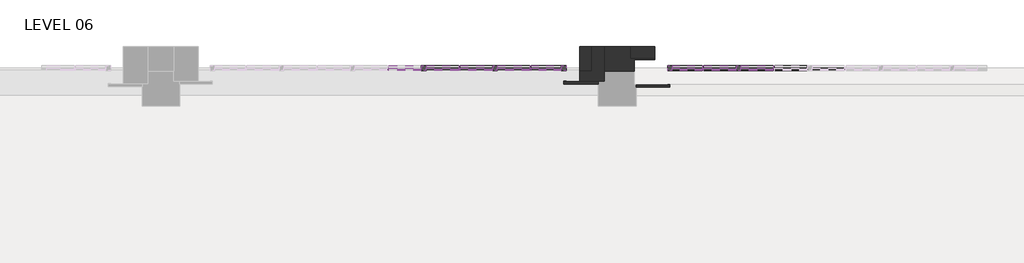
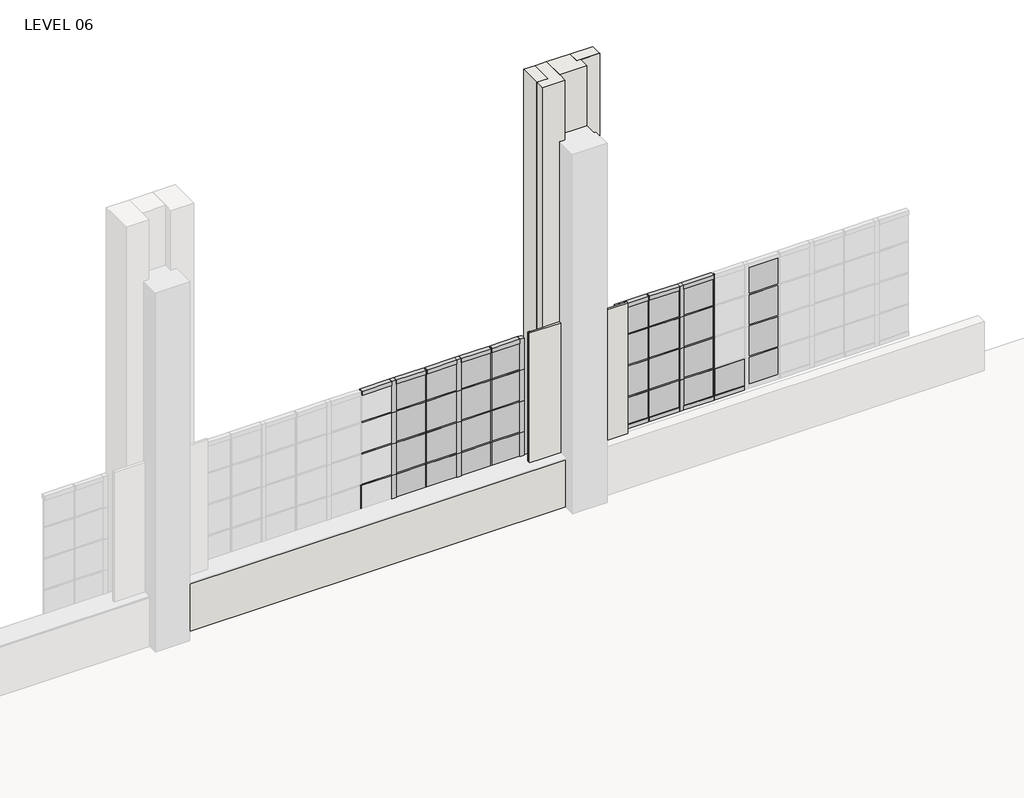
# One storey, part 10 of 16: 77 members, 33 plates, 9 walls.
"""IFC4 building model written with IfcOpenShell, lengths in millimetres."""

from ifc_helpers import new_model, si_unit, frame, origin, place, context, project, spatial, polyline, outline, extrude, faceted_brep, transform, mapped, element, save
from components import member_605ff978, member_d9fe2114, member_fd592df6, member_78bb2ef1, member_40290cd5, member_ba51e770, member_6e5aab5d, member_bacafba3, member_a6d649dc, system_panel_glazed_84a10c8e, system_panel_glazed_44697018, system_panel_glazed_99b9b709, system_panel_glazed_bf1454fd, system_panel_glazed_f5a07ad7, system_panel_glazed_70237ed9

model = new_model("IFC4")

# Units and contexts
model_context = context("Model", 3, world=origin())
ifc_project = project(units=[si_unit("LENGTHUNIT", "METRE", prefix="MILLI")], contexts=[model_context])

# Site, building, storey
site = spatial("IfcSite", under=ifc_project)
building = spatial("IfcBuilding", under=site)
storey = spatial("IfcBuildingStorey", under=building, Name="LEVEL 06", Elevation=17449.8)

# Members
placement = place(None, origin())
member_shape = member_605ff978(model_context)
element("IfcMember", 1, ObjectType="Rectangular Mullion : 1\" x 1\" - Butt Joint", at=placement, inside=storey, context=model_context, shape_type="MappedRepresentation", body=[
    mapped(member_shape, transform((-21405.0571519, -412.75, 19989.8), x_axis=(0.0, 0.0, 1.0), y_axis=(0.0, -1.0, 0.0), z_axis=(1.0, 0.0, 0.0))),
])
element("IfcMember", 2, ObjectType="Rectangular Mullion : 1\" x 1\" - Butt Joint", at=placement, inside=storey, context=model_context, shape_type="MappedRepresentation", body=[
    mapped(member_shape, transform((-21405.0571519, -412.75, 19405.6), x_axis=(0.0, 0.0, 1.0), y_axis=(0.0, -1.0, 0.0), z_axis=(1.0, 0.0, 0.0))),
])
element("IfcMember", 3, ObjectType="Rectangular Mullion : 1\" x 1\" - Butt Joint", at=placement, inside=storey, context=model_context, shape_type="MappedRepresentation", body=[
    mapped(member_shape, transform((-21405.0571519, -412.75, 18821.4), x_axis=(0.0, 0.0, 1.0), y_axis=(0.0, -1.0, 0.0), z_axis=(1.0, 0.0, 0.0))),
])
member_2_shape = member_d9fe2114(model_context)
element("IfcMember", 4, ObjectType="Rectangular Mullion : 1\" x 1\" - Butt Joint", at=placement, inside=storey, context=model_context, shape_type="MappedRepresentation", body=[
    mapped(member_2_shape, transform((-20856.4171519, -412.75, 19989.8), x_axis=(0.0, 0.0, 1.0), y_axis=(0.0, -1.0, 0.0), z_axis=(1.0, 0.0, 0.0))),
])
element("IfcMember", 5, ObjectType="Rectangular Mullion : 1\" x 1\" - Butt Joint", at=placement, inside=storey, context=model_context, shape_type="MappedRepresentation", body=[
    mapped(member_2_shape, transform((-20256.9771519, -412.75, 19989.8), x_axis=(0.0, 0.0, 1.0), y_axis=(0.0, -1.0, 0.0), z_axis=(1.0, 0.0, 0.0))),
])
element("IfcMember", 6, ObjectType="Rectangular Mullion : 1\" x 1\" - Butt Joint", at=placement, inside=storey, context=model_context, shape_type="MappedRepresentation", body=[
    mapped(member_2_shape, transform((-20856.4171519, -412.75, 19405.6), x_axis=(0.0, 0.0, 1.0), y_axis=(0.0, -1.0, 0.0), z_axis=(1.0, 0.0, 0.0))),
])
element("IfcMember", 7, ObjectType="Rectangular Mullion : 1\" x 1\" - Butt Joint", at=placement, inside=storey, context=model_context, shape_type="MappedRepresentation", body=[
    mapped(member_2_shape, transform((-20256.9771519, -412.75, 19405.6), x_axis=(0.0, 0.0, 1.0), y_axis=(0.0, -1.0, 0.0), z_axis=(1.0, 0.0, 0.0))),
])
element("IfcMember", 8, ObjectType="Rectangular Mullion : 1\" x 1\" - Butt Joint", at=placement, inside=storey, context=model_context, shape_type="MappedRepresentation", body=[
    mapped(member_2_shape, transform((-20856.4171519, -412.75, 18821.4), x_axis=(0.0, 0.0, 1.0), y_axis=(0.0, -1.0, 0.0), z_axis=(1.0, 0.0, 0.0))),
])
element("IfcMember", 9, ObjectType="Rectangular Mullion : 1\" x 1\" - Butt Joint", at=placement, inside=storey, context=model_context, shape_type="MappedRepresentation", body=[
    mapped(member_2_shape, transform((-20256.9771519, -412.75, 18821.4), x_axis=(0.0, 0.0, 1.0), y_axis=(0.0, -1.0, 0.0), z_axis=(1.0, 0.0, 0.0))),
])
element("IfcMember", 10, ObjectType="Rectangular Mullion : 1\" x 1\" - Butt Joint", at=placement, inside=storey, context=model_context, shape_type="MappedRepresentation", body=[
    mapped(member_2_shape, transform((-25932.5721217, -412.75, 19989.8), x_axis=(0.0, 0.0, 1.0), y_axis=(0.0, -1.0, 0.0), z_axis=(1.0, 0.0, 0.0))),
])
element("IfcMember", 11, ObjectType="Rectangular Mullion : 1\" x 1\" - Butt Joint", at=placement, inside=storey, context=model_context, shape_type="MappedRepresentation", body=[
    mapped(member_2_shape, transform((-24784.4921217, -412.75, 19989.8), x_axis=(0.0, 0.0, 1.0), y_axis=(0.0, -1.0, 0.0), z_axis=(1.0, 0.0, 0.0))),
])
element("IfcMember", 12, ObjectType="Rectangular Mullion : 1\" x 1\" - Butt Joint", at=placement, inside=storey, context=model_context, shape_type="MappedRepresentation", body=[
    mapped(member_2_shape, transform((-25333.1321217, -412.75, 19989.8), x_axis=(0.0, 0.0, 1.0), y_axis=(0.0, -1.0, 0.0), z_axis=(1.0, 0.0, 0.0))),
])
element("IfcMember", 13, ObjectType="Rectangular Mullion : 1\" x 1\" - Butt Joint", at=placement, inside=storey, context=model_context, shape_type="MappedRepresentation", body=[
    mapped(member_2_shape, transform((-24185.0521217, -412.75, 19989.8), x_axis=(0.0, 0.0, 1.0), y_axis=(0.0, -1.0, 0.0), z_axis=(1.0, 0.0, 0.0))),
])
element("IfcMember", 14, ObjectType="Rectangular Mullion : 1\" x 1\" - Butt Joint", at=placement, inside=storey, context=model_context, shape_type="MappedRepresentation", body=[
    mapped(member_2_shape, transform((-25932.5721217, -412.75, 19405.6), x_axis=(0.0, 0.0, 1.0), y_axis=(0.0, -1.0, 0.0), z_axis=(1.0, 0.0, 0.0))),
])
element("IfcMember", 15, ObjectType="Rectangular Mullion : 1\" x 1\" - Butt Joint", at=placement, inside=storey, context=model_context, shape_type="MappedRepresentation", body=[
    mapped(member_2_shape, transform((-24784.4921217, -412.75, 19405.6), x_axis=(0.0, 0.0, 1.0), y_axis=(0.0, -1.0, 0.0), z_axis=(1.0, 0.0, 0.0))),
])
element("IfcMember", 16, ObjectType="Rectangular Mullion : 1\" x 1\" - Butt Joint", at=placement, inside=storey, context=model_context, shape_type="MappedRepresentation", body=[
    mapped(member_2_shape, transform((-25333.1321217, -412.75, 19405.6), x_axis=(0.0, 0.0, 1.0), y_axis=(0.0, -1.0, 0.0), z_axis=(1.0, 0.0, 0.0))),
])
element("IfcMember", 17, ObjectType="Rectangular Mullion : 1\" x 1\" - Butt Joint", at=placement, inside=storey, context=model_context, shape_type="MappedRepresentation", body=[
    mapped(member_2_shape, transform((-24185.0521217, -412.75, 19405.6), x_axis=(0.0, 0.0, 1.0), y_axis=(0.0, -1.0, 0.0), z_axis=(1.0, 0.0, 0.0))),
])
element("IfcMember", 18, ObjectType="Rectangular Mullion : 1\" x 1\" - Butt Joint", at=placement, inside=storey, context=model_context, shape_type="MappedRepresentation", body=[
    mapped(member_2_shape, transform((-25932.5721217, -412.75, 18821.4), x_axis=(0.0, 0.0, 1.0), y_axis=(0.0, -1.0, 0.0), z_axis=(1.0, 0.0, 0.0))),
])
element("IfcMember", 19, ObjectType="Rectangular Mullion : 1\" x 1\" - Butt Joint", at=placement, inside=storey, context=model_context, shape_type="MappedRepresentation", body=[
    mapped(member_2_shape, transform((-24784.4921217, -412.75, 18821.4), x_axis=(0.0, 0.0, 1.0), y_axis=(0.0, -1.0, 0.0), z_axis=(1.0, 0.0, 0.0))),
])
element("IfcMember", 20, ObjectType="Rectangular Mullion : 1\" x 1\" - Butt Joint", at=placement, inside=storey, context=model_context, shape_type="MappedRepresentation", body=[
    mapped(member_2_shape, transform((-25333.1321217, -412.75, 18821.4), x_axis=(0.0, 0.0, 1.0), y_axis=(0.0, -1.0, 0.0), z_axis=(1.0, 0.0, 0.0))),
])
element("IfcMember", 21, ObjectType="Rectangular Mullion : 1\" x 1\" - Butt Joint", at=placement, inside=storey, context=model_context, shape_type="MappedRepresentation", body=[
    mapped(member_2_shape, transform((-24185.0521217, -412.75, 18821.4), x_axis=(0.0, 0.0, 1.0), y_axis=(0.0, -1.0, 0.0), z_axis=(1.0, 0.0, 0.0))),
])
member_3_shape = member_fd592df6(model_context)
element("IfcMember", 22, ObjectType="Rectangular Mullion : 1\" x 1\" - Butt Joint", at=placement, inside=storey, context=model_context, shape_type="MappedRepresentation", body=[
    mapped(member_3_shape, transform((-23674.5121217, -412.75, 19989.8), x_axis=(0.0, 0.0, 1.0), y_axis=(0.0, -1.0, 0.0), z_axis=(1.0, 0.0, 0.0))),
])
element("IfcMember", 23, ObjectType="Rectangular Mullion : 1\" x 1\" - Butt Joint", at=placement, inside=storey, context=model_context, shape_type="MappedRepresentation", body=[
    mapped(member_3_shape, transform((-23674.5121217, -412.75, 19405.6), x_axis=(0.0, 0.0, 1.0), y_axis=(0.0, -1.0, 0.0), z_axis=(1.0, 0.0, 0.0))),
])
element("IfcMember", 24, ObjectType="Rectangular Mullion : 1\" x 1\" - Butt Joint", at=placement, inside=storey, context=model_context, shape_type="MappedRepresentation", body=[
    mapped(member_3_shape, transform((-23674.5121217, -412.75, 18821.4), x_axis=(0.0, 0.0, 1.0), y_axis=(0.0, -1.0, 0.0), z_axis=(1.0, 0.0, 0.0))),
])
member_4_shape = member_78bb2ef1(model_context)
element("IfcMember", 25, ObjectType="Rectangular Mullion : 1\" x 1\" - Butt Joint", at=placement, inside=storey, context=model_context, shape_type="MappedRepresentation", body=[
    mapped(member_4_shape, transform((-20244.2771519, -412.75, 19989.8), x_axis=(1.0, 0.0, 0.0), y_axis=(0.0, -1.0, 0.0), z_axis=(0.0, 0.0, -1.0))),
])
element("IfcMember", 26, ObjectType="Rectangular Mullion : 1\" x 1\" - Butt Joint", at=placement, inside=storey, context=model_context, shape_type="MappedRepresentation", body=[
    mapped(member_4_shape, transform((-21392.3571519, -412.75, 19989.8), x_axis=(1.0, 0.0, 0.0), y_axis=(0.0, -1.0, 0.0), z_axis=(0.0, 0.0, -1.0))),
])
element("IfcMember", 27, ObjectType="Rectangular Mullion : 1\" x 1\" - Butt Joint", at=placement, inside=storey, context=model_context, shape_type="MappedRepresentation", body=[
    mapped(member_4_shape, transform((-24172.3521217, -412.75, 19989.8), x_axis=(1.0, 0.0, 0.0), y_axis=(0.0, -1.0, 0.0), z_axis=(0.0, 0.0, -1.0))),
])
element("IfcMember", 28, ObjectType="Rectangular Mullion : 1\" x 1\" - Butt Joint", at=placement, inside=storey, context=model_context, shape_type="MappedRepresentation", body=[
    mapped(member_4_shape, transform((-25320.4321217, -412.75, 19989.8), x_axis=(1.0, 0.0, 0.0), y_axis=(0.0, -1.0, 0.0), z_axis=(0.0, 0.0, -1.0))),
])
element("IfcMember", 29, ObjectType="Rectangular Mullion : 1\" x 1\" - Butt Joint", at=placement, inside=storey, context=model_context, shape_type="MappedRepresentation", body=[
    mapped(member_4_shape, transform((-20244.2771519, -412.75, 18821.4), x_axis=(1.0, 0.0, 0.0), y_axis=(0.0, -1.0, 0.0), z_axis=(0.0, 0.0, -1.0))),
])
element("IfcMember", 30, ObjectType="Rectangular Mullion : 1\" x 1\" - Butt Joint", at=placement, inside=storey, context=model_context, shape_type="MappedRepresentation", body=[
    mapped(member_4_shape, transform((-20244.2771519, -412.75, 19405.6), x_axis=(1.0, 0.0, 0.0), y_axis=(0.0, -1.0, 0.0), z_axis=(0.0, 0.0, -1.0))),
])
element("IfcMember", 31, ObjectType="Rectangular Mullion : 1\" x 1\" - Butt Joint", at=placement, inside=storey, context=model_context, shape_type="MappedRepresentation", body=[
    mapped(member_4_shape, transform((-21392.3571519, -412.75, 18821.4), x_axis=(1.0, 0.0, 0.0), y_axis=(0.0, -1.0, 0.0), z_axis=(0.0, 0.0, -1.0))),
])
element("IfcMember", 32, ObjectType="Rectangular Mullion : 1\" x 1\" - Butt Joint", at=placement, inside=storey, context=model_context, shape_type="MappedRepresentation", body=[
    mapped(member_4_shape, transform((-21392.3571519, -412.75, 19405.6), x_axis=(1.0, 0.0, 0.0), y_axis=(0.0, -1.0, 0.0), z_axis=(0.0, 0.0, -1.0))),
])
element("IfcMember", 33, ObjectType="Rectangular Mullion : 1\" x 1\" - Butt Joint", at=placement, inside=storey, context=model_context, shape_type="MappedRepresentation", body=[
    mapped(member_4_shape, transform((-24172.3521217, -412.75, 18821.4), x_axis=(1.0, 0.0, 0.0), y_axis=(0.0, -1.0, 0.0), z_axis=(0.0, 0.0, -1.0))),
])
element("IfcMember", 34, ObjectType="Rectangular Mullion : 1\" x 1\" - Butt Joint", at=placement, inside=storey, context=model_context, shape_type="MappedRepresentation", body=[
    mapped(member_4_shape, transform((-24172.3521217, -412.75, 19405.6), x_axis=(1.0, 0.0, 0.0), y_axis=(0.0, -1.0, 0.0), z_axis=(0.0, 0.0, -1.0))),
])
element("IfcMember", 35, ObjectType="Rectangular Mullion : 1\" x 1\" - Butt Joint", at=placement, inside=storey, context=model_context, shape_type="MappedRepresentation", body=[
    mapped(member_4_shape, transform((-25320.4321217, -412.75, 18821.4), x_axis=(1.0, 0.0, 0.0), y_axis=(0.0, -1.0, 0.0), z_axis=(0.0, 0.0, -1.0))),
])
element("IfcMember", 36, ObjectType="Rectangular Mullion : 1\" x 1\" - Butt Joint", at=placement, inside=storey, context=model_context, shape_type="MappedRepresentation", body=[
    mapped(member_4_shape, transform((-25320.4321217, -412.75, 19405.6), x_axis=(1.0, 0.0, 0.0), y_axis=(0.0, -1.0, 0.0), z_axis=(0.0, 0.0, -1.0))),
])
element("IfcMember", 37, ObjectType="Rectangular Mullion : 1\" x 1\" - Butt Joint", at=placement, inside=storey, context=model_context, shape_type="MappedRepresentation", body=[
    mapped(member_4_shape, transform((-20244.2771519, -412.75, 18237.2), x_axis=(1.0, 0.0, 0.0), y_axis=(0.0, -1.0, 0.0), z_axis=(0.0, 0.0, -1.0))),
])
element("IfcMember", 38, ObjectType="Rectangular Mullion : 1\" x 1\" - Butt Joint", at=placement, inside=storey, context=model_context, shape_type="MappedRepresentation", body=[
    mapped(member_4_shape, transform((-21392.3571519, -412.75, 18237.2), x_axis=(1.0, 0.0, 0.0), y_axis=(0.0, -1.0, 0.0), z_axis=(0.0, 0.0, -1.0))),
])
element("IfcMember", 39, ObjectType="Rectangular Mullion : 1\" x 1\" - Butt Joint", at=placement, inside=storey, context=model_context, shape_type="MappedRepresentation", body=[
    mapped(member_4_shape, transform((-24172.3521217, -412.75, 18237.2), x_axis=(1.0, 0.0, 0.0), y_axis=(0.0, -1.0, 0.0), z_axis=(0.0, 0.0, -1.0))),
])
element("IfcMember", 40, ObjectType="Rectangular Mullion : 1\" x 1\" - Butt Joint", at=placement, inside=storey, context=model_context, shape_type="MappedRepresentation", body=[
    mapped(member_4_shape, transform((-25320.4321217, -412.75, 18237.2), x_axis=(1.0, 0.0, 0.0), y_axis=(0.0, -1.0, 0.0), z_axis=(0.0, 0.0, -1.0))),
])
element("IfcMember", 41, ObjectType="Rectangular Mullion : 1\" x 1\" - Butt Joint", at=placement, inside=storey, context=model_context, shape_type="MappedRepresentation", body=[
    mapped(member_4_shape, transform((-26468.5121217, -412.75, 18237.2), x_axis=(1.0, 0.0, 0.0), y_axis=(0.0, -1.0, 0.0), z_axis=(0.0, 0.0, -1.0))),
])
member_5_shape = member_40290cd5(model_context)
element("IfcMember", 42, ObjectType="Rectangular Mullion : 3\" x 3\" Window Jamb", at=placement, inside=storey, context=model_context, shape_type="MappedRepresentation", body=[
    mapped(member_5_shape, transform((-21405.0571519, -412.75, 20574.0), x_axis=(0.0, 0.0, 1.0), y_axis=(0.0, -1.0, 0.0), z_axis=(1.0, 0.0, 0.0))),
])
element("IfcMember", 43, ObjectType="Rectangular Mullion : 3\" x 3\" Window Jamb", at=placement, inside=storey, context=model_context, shape_type="MappedRepresentation", body=[
    mapped(member_5_shape, transform((-21885.7412013, -412.75, 18237.2), x_axis=(0.0, 0.0, -1.0), y_axis=(0.0, -1.0, 0.0), z_axis=(-1.0, 0.0, 0.0))),
])
member_6_shape = member_ba51e770(model_context)
element("IfcMember", 44, ObjectType="Rectangular Mullion : 3\" x 3\" Window Jamb", at=placement, inside=storey, context=model_context, shape_type="MappedRepresentation", body=[
    mapped(member_6_shape, transform((-23674.5121217, -412.75, 20574.0), x_axis=(0.0, 0.0, 1.0), y_axis=(0.0, -1.0, 0.0), z_axis=(1.0, 0.0, 0.0))),
])
member_7_shape = member_6e5aab5d(model_context)
element("IfcMember", 45, ObjectType="Rectangular Mullion : 3\" x 3\" Window Jamb", at=placement, inside=storey, context=model_context, shape_type="MappedRepresentation", body=[
    mapped(member_7_shape, transform((-20256.9771519, -412.75, 20574.0), x_axis=(0.0, 0.0, 1.0), y_axis=(0.0, -1.0, 0.0), z_axis=(1.0, 0.0, 0.0))),
])
element("IfcMember", 46, ObjectType="Rectangular Mullion : 3\" x 3\" Window Jamb", at=placement, inside=storey, context=model_context, shape_type="MappedRepresentation", body=[
    mapped(member_7_shape, transform((-20856.4171519, -412.75, 20574.0), x_axis=(0.0, 0.0, 1.0), y_axis=(0.0, -1.0, 0.0), z_axis=(1.0, 0.0, 0.0))),
])
element("IfcMember", 47, ObjectType="Rectangular Mullion : 3\" x 3\" Window Jamb", at=placement, inside=storey, context=model_context, shape_type="MappedRepresentation", body=[
    mapped(member_7_shape, transform((-25333.1321217, -412.75, 20574.0), x_axis=(0.0, 0.0, 1.0), y_axis=(0.0, -1.0, 0.0), z_axis=(1.0, 0.0, 0.0))),
])
element("IfcMember", 48, ObjectType="Rectangular Mullion : 3\" x 3\" Window Jamb", at=placement, inside=storey, context=model_context, shape_type="MappedRepresentation", body=[
    mapped(member_7_shape, transform((-24185.0521217, -412.75, 20574.0), x_axis=(0.0, 0.0, 1.0), y_axis=(0.0, -1.0, 0.0), z_axis=(1.0, 0.0, 0.0))),
])
element("IfcMember", 49, ObjectType="Rectangular Mullion : 3\" x 3\" Window Jamb", at=placement, inside=storey, context=model_context, shape_type="MappedRepresentation", body=[
    mapped(member_7_shape, transform((-25932.5721217, -412.75, 20574.0), x_axis=(0.0, 0.0, 1.0), y_axis=(0.0, -1.0, 0.0), z_axis=(1.0, 0.0, 0.0))),
])
element("IfcMember", 50, ObjectType="Rectangular Mullion : 3\" x 3\" Window Jamb", at=placement, inside=storey, context=model_context, shape_type="MappedRepresentation", body=[
    mapped(member_7_shape, transform((-24784.4921217, -412.75, 20574.0), x_axis=(0.0, 0.0, 1.0), y_axis=(0.0, -1.0, 0.0), z_axis=(1.0, 0.0, 0.0))),
])
element("IfcMember", 51, ObjectType="Rectangular Mullion : 3\" x 3\" Window Jamb", at=placement, inside=storey, context=model_context, shape_type="MappedRepresentation", body=[
    mapped(member_7_shape, transform((-21379.6571519, -412.75, 18237.2), x_axis=(0.0, 0.0, -1.0), y_axis=(0.0, -1.0, 0.0), z_axis=(-1.0, 0.0, 0.0))),
])
element("IfcMember", 52, ObjectType="Rectangular Mullion : 3\" x 3\" Window Jamb", at=placement, inside=storey, context=model_context, shape_type="MappedRepresentation", body=[
    mapped(member_7_shape, transform((-20231.5771519, -412.75, 18237.2), x_axis=(0.0, 0.0, -1.0), y_axis=(0.0, -1.0, 0.0), z_axis=(-1.0, 0.0, 0.0))),
])
element("IfcMember", 53, ObjectType="Rectangular Mullion : 3\" x 3\" Window Jamb", at=placement, inside=storey, context=model_context, shape_type="MappedRepresentation", body=[
    mapped(member_7_shape, transform((-20780.2171519, -412.75, 18237.2), x_axis=(0.0, 0.0, -1.0), y_axis=(0.0, -1.0, 0.0), z_axis=(-1.0, 0.0, 0.0))),
])
element("IfcMember", 54, ObjectType="Rectangular Mullion : 3\" x 3\" Window Jamb", at=placement, inside=storey, context=model_context, shape_type="MappedRepresentation", body=[
    mapped(member_7_shape, transform((-25307.7321217, -412.75, 18237.2), x_axis=(0.0, 0.0, -1.0), y_axis=(0.0, -1.0, 0.0), z_axis=(-1.0, 0.0, 0.0))),
])
element("IfcMember", 55, ObjectType="Rectangular Mullion : 3\" x 3\" Window Jamb", at=placement, inside=storey, context=model_context, shape_type="MappedRepresentation", body=[
    mapped(member_7_shape, transform((-25856.3721217, -412.75, 18237.2), x_axis=(0.0, 0.0, -1.0), y_axis=(0.0, -1.0, 0.0), z_axis=(-1.0, 0.0, 0.0))),
])
element("IfcMember", 56, ObjectType="Rectangular Mullion : 3\" x 3\" Window Jamb", at=placement, inside=storey, context=model_context, shape_type="MappedRepresentation", body=[
    mapped(member_7_shape, transform((-24708.2921217, -412.75, 18237.2), x_axis=(0.0, 0.0, -1.0), y_axis=(0.0, -1.0, 0.0), z_axis=(-1.0, 0.0, 0.0))),
])
element("IfcMember", 57, ObjectType="Rectangular Mullion : 3\" x 3\" Window Jamb", at=placement, inside=storey, context=model_context, shape_type="MappedRepresentation", body=[
    mapped(member_6_shape, transform((-24159.6521217, -412.75, 18237.2), x_axis=(0.0, 0.0, -1.0), y_axis=(0.0, -1.0, 0.0), z_axis=(-1.0, 0.0, 0.0))),
])
member_8_shape = member_bacafba3(model_context)
element("IfcMember", 58, ObjectType="Rectangular Mullion : 3\" x 3\" Window Jamb", at=placement, inside=storey, context=model_context, shape_type="MappedRepresentation", body=[
    mapped(member_8_shape, transform((-20818.3171519, -412.75, 19989.8), x_axis=(1.0, 0.0, 0.0), y_axis=(0.0, -1.0, 0.0), z_axis=(0.0, 0.0, -1.0))),
])
element("IfcMember", 59, ObjectType="Rectangular Mullion : 3\" x 3\" Window Jamb", at=placement, inside=storey, context=model_context, shape_type="MappedRepresentation", body=[
    mapped(member_8_shape, transform((-24746.3921217, -412.75, 19989.8), x_axis=(1.0, 0.0, 0.0), y_axis=(0.0, -1.0, 0.0), z_axis=(0.0, 0.0, -1.0))),
])
element("IfcMember", 60, ObjectType="Rectangular Mullion : 3\" x 3\" Window Jamb", at=placement, inside=storey, context=model_context, shape_type="MappedRepresentation", body=[
    mapped(member_8_shape, transform((-25894.4721217, -412.75, 19989.8), x_axis=(1.0, 0.0, 0.0), y_axis=(0.0, -1.0, 0.0), z_axis=(0.0, 0.0, -1.0))),
])
element("IfcMember", 61, ObjectType="Rectangular Mullion : 3\" x 3\" Window Jamb", at=placement, inside=storey, context=model_context, shape_type="MappedRepresentation", body=[
    mapped(member_8_shape, transform((-20818.3171519, -412.75, 18821.4), x_axis=(1.0, 0.0, 0.0), y_axis=(0.0, -1.0, 0.0), z_axis=(0.0, 0.0, -1.0))),
])
element("IfcMember", 62, ObjectType="Rectangular Mullion : 3\" x 3\" Window Jamb", at=placement, inside=storey, context=model_context, shape_type="MappedRepresentation", body=[
    mapped(member_8_shape, transform((-20818.3171519, -412.75, 19405.6), x_axis=(1.0, 0.0, 0.0), y_axis=(0.0, -1.0, 0.0), z_axis=(0.0, 0.0, -1.0))),
])
element("IfcMember", 63, ObjectType="Rectangular Mullion : 3\" x 3\" Window Jamb", at=placement, inside=storey, context=model_context, shape_type="MappedRepresentation", body=[
    mapped(member_8_shape, transform((-24746.3921217, -412.75, 18821.4), x_axis=(1.0, 0.0, 0.0), y_axis=(0.0, -1.0, 0.0), z_axis=(0.0, 0.0, -1.0))),
])
element("IfcMember", 64, ObjectType="Rectangular Mullion : 3\" x 3\" Window Jamb", at=placement, inside=storey, context=model_context, shape_type="MappedRepresentation", body=[
    mapped(member_8_shape, transform((-24746.3921217, -412.75, 19405.6), x_axis=(1.0, 0.0, 0.0), y_axis=(0.0, -1.0, 0.0), z_axis=(0.0, 0.0, -1.0))),
])
element("IfcMember", 65, ObjectType="Rectangular Mullion : 3\" x 3\" Window Jamb", at=placement, inside=storey, context=model_context, shape_type="MappedRepresentation", body=[
    mapped(member_8_shape, transform((-25894.4721217, -412.75, 18821.4), x_axis=(1.0, 0.0, 0.0), y_axis=(0.0, -1.0, 0.0), z_axis=(0.0, 0.0, -1.0))),
])
element("IfcMember", 66, ObjectType="Rectangular Mullion : 3\" x 3\" Window Jamb", at=placement, inside=storey, context=model_context, shape_type="MappedRepresentation", body=[
    mapped(member_8_shape, transform((-25894.4721217, -412.75, 19405.6), x_axis=(1.0, 0.0, 0.0), y_axis=(0.0, -1.0, 0.0), z_axis=(0.0, 0.0, -1.0))),
])
element("IfcMember", 67, ObjectType="Rectangular Mullion : 3\" x 3\" Window Jamb", at=placement, inside=storey, context=model_context, shape_type="MappedRepresentation", body=[
    mapped(member_8_shape, transform((-20818.3171519, -412.75, 18237.2), x_axis=(1.0, 0.0, 0.0), y_axis=(0.0, -1.0, 0.0), z_axis=(0.0, 0.0, -1.0))),
])
element("IfcMember", 68, ObjectType="Rectangular Mullion : 3\" x 3\" Window Jamb", at=placement, inside=storey, context=model_context, shape_type="MappedRepresentation", body=[
    mapped(member_8_shape, transform((-24746.3921217, -412.75, 18237.2), x_axis=(1.0, 0.0, 0.0), y_axis=(0.0, -1.0, 0.0), z_axis=(0.0, 0.0, -1.0))),
])
element("IfcMember", 69, ObjectType="Rectangular Mullion : 3\" x 3\" Window Jamb", at=placement, inside=storey, context=model_context, shape_type="MappedRepresentation", body=[
    mapped(member_8_shape, transform((-25894.4721217, -412.75, 18237.2), x_axis=(1.0, 0.0, 0.0), y_axis=(0.0, -1.0, 0.0), z_axis=(0.0, 0.0, -1.0))),
])
member_9_shape = member_a6d649dc(model_context)
element("IfcMember", 70, ObjectType="Rectangular Mullion : 3\" x 3\" Window Jamb", at=placement, inside=storey, context=model_context, shape_type="MappedRepresentation", body=[
    mapped(member_9_shape, transform((-23598.3121217, -412.75, 19989.8), x_axis=(1.0, 0.0, 0.0), y_axis=(0.0, -1.0, 0.0), z_axis=(0.0, 0.0, -1.0))),
])
element("IfcMember", 71, ObjectType="Rectangular Mullion : 3\" x 3\" Window Jamb", at=placement, inside=storey, context=model_context, shape_type="MappedRepresentation", body=[
    mapped(member_9_shape, transform((-23598.3121217, -412.75, 18821.4), x_axis=(1.0, 0.0, 0.0), y_axis=(0.0, -1.0, 0.0), z_axis=(0.0, 0.0, -1.0))),
])
element("IfcMember", 72, ObjectType="Rectangular Mullion : 3\" x 3\" Window Jamb", at=placement, inside=storey, context=model_context, shape_type="MappedRepresentation", body=[
    mapped(member_9_shape, transform((-23598.3121217, -412.75, 19405.6), x_axis=(1.0, 0.0, 0.0), y_axis=(0.0, -1.0, 0.0), z_axis=(0.0, 0.0, -1.0))),
])
element("IfcMember", 73, ObjectType="Rectangular Mullion : 3\" x 3\" Window Jamb", at=placement, inside=storey, context=model_context, shape_type="MappedRepresentation", body=[
    mapped(member_9_shape, transform((-23598.3121217, -412.75, 18237.2), x_axis=(1.0, 0.0, 0.0), y_axis=(0.0, -1.0, 0.0), z_axis=(0.0, 0.0, -1.0))),
])
element("IfcMember", 74, ObjectType="Rectangular Mullion : 3\" x 3\" Window Jamb", at=placement, inside=storey, context=model_context, shape_type="MappedRepresentation", body=[
    mapped(member_9_shape, transform((-21961.9412013, -412.75, 19989.8), x_axis=(-1.0, 0.0, 0.0), y_axis=(0.0, -1.0, 0.0), z_axis=(0.0, 0.0, 1.0))),
])
element("IfcMember", 75, ObjectType="Rectangular Mullion : 3\" x 3\" Window Jamb", at=placement, inside=storey, context=model_context, shape_type="MappedRepresentation", body=[
    mapped(member_9_shape, transform((-21961.9412013, -412.75, 19405.6), x_axis=(-1.0, 0.0, 0.0), y_axis=(0.0, -1.0, 0.0), z_axis=(0.0, 0.0, 1.0))),
])
element("IfcMember", 76, ObjectType="Rectangular Mullion : 3\" x 3\" Window Jamb", at=placement, inside=storey, context=model_context, shape_type="MappedRepresentation", body=[
    mapped(member_9_shape, transform((-21961.9412013, -412.75, 18821.4), x_axis=(-1.0, 0.0, 0.0), y_axis=(0.0, -1.0, 0.0), z_axis=(0.0, 0.0, 1.0))),
])
element("IfcMember", 77, ObjectType="Rectangular Mullion : 3\" x 3\" Window Jamb", at=placement, inside=storey, context=model_context, shape_type="MappedRepresentation", body=[
    mapped(member_9_shape, transform((-21961.9412013, -412.75, 20574.0), x_axis=(-1.0, 0.0, 0.0), y_axis=(0.0, -1.0, 0.0), z_axis=(0.0, 0.0, 1.0))),
])

# Plates
system_panel_glazed_shape = system_panel_glazed_84a10c8e(model_context)
element("IfcPlate", 78, ObjectType="System Panel : Glazed", at=placement, inside=storey, context=model_context, shape_type="MappedRepresentation", body=[
    mapped(system_panel_glazed_shape, transform((-23917.0821217, -412.75, 18313.4), x_axis=(1.0, 0.0, 0.0), y_axis=(0.0, 1.0, 0.0), z_axis=(0.0, 0.0, 1.0))),
])
element("IfcPlate", 79, ObjectType="System Panel : Glazed", at=placement, inside=storey, context=model_context, shape_type="MappedRepresentation", body=[
    mapped(system_panel_glazed_shape, transform((-23917.0821217, -412.75, 20002.5), x_axis=(1.0, 0.0, 0.0), y_axis=(0.0, 1.0, 0.0), z_axis=(0.0, 0.0, 1.0))),
])
system_panel_glazed_2_shape = system_panel_glazed_44697018(model_context)
element("IfcPlate", 80, ObjectType="System Panel : Glazed", at=placement, inside=storey, context=model_context, shape_type="MappedRepresentation", body=[
    mapped(system_panel_glazed_2_shape, transform((-19370.5171519, -412.75, 18313.4), x_axis=(1.0, 0.0, 0.0), y_axis=(0.0, 1.0, 0.0), z_axis=(0.0, 0.0, 1.0))),
])
element("IfcPlate", 81, ObjectType="System Panel : Glazed", at=placement, inside=storey, context=model_context, shape_type="MappedRepresentation", body=[
    mapped(system_panel_glazed_2_shape, transform((-20518.5971519, -412.75, 18313.4), x_axis=(1.0, 0.0, 0.0), y_axis=(0.0, 1.0, 0.0), z_axis=(0.0, 0.0, 1.0))),
])
element("IfcPlate", 82, ObjectType="System Panel : Glazed", at=placement, inside=storey, context=model_context, shape_type="MappedRepresentation", body=[
    mapped(system_panel_glazed_2_shape, transform((-20518.5971519, -412.75, 20002.5), x_axis=(1.0, 0.0, 0.0), y_axis=(0.0, 1.0, 0.0), z_axis=(0.0, 0.0, 1.0))),
])
element("IfcPlate", 83, ObjectType="System Panel : Glazed", at=placement, inside=storey, context=model_context, shape_type="MappedRepresentation", body=[
    mapped(system_panel_glazed_2_shape, transform((-19370.5171519, -412.75, 20002.5), x_axis=(1.0, 0.0, 0.0), y_axis=(0.0, 1.0, 0.0), z_axis=(0.0, 0.0, 1.0))),
])
element("IfcPlate", 84, ObjectType="System Panel : Glazed", at=placement, inside=storey, context=model_context, shape_type="MappedRepresentation", body=[
    mapped(system_panel_glazed_2_shape, transform((-19969.9571519, -412.75, 18313.4), x_axis=(1.0, 0.0, 0.0), y_axis=(0.0, 1.0, 0.0), z_axis=(0.0, 0.0, 1.0))),
])
element("IfcPlate", 85, ObjectType="System Panel : Glazed", at=placement, inside=storey, context=model_context, shape_type="MappedRepresentation", body=[
    mapped(system_panel_glazed_2_shape, transform((-21118.0371519, -412.75, 18313.4), x_axis=(1.0, 0.0, 0.0), y_axis=(0.0, 1.0, 0.0), z_axis=(0.0, 0.0, 1.0))),
])
element("IfcPlate", 86, ObjectType="System Panel : Glazed", at=placement, inside=storey, context=model_context, shape_type="MappedRepresentation", body=[
    mapped(system_panel_glazed_2_shape, transform((-21118.0371519, -412.75, 20002.5), x_axis=(1.0, 0.0, 0.0), y_axis=(0.0, 1.0, 0.0), z_axis=(0.0, 0.0, 1.0))),
])
element("IfcPlate", 87, ObjectType="System Panel : Glazed", at=placement, inside=storey, context=model_context, shape_type="MappedRepresentation", body=[
    mapped(system_panel_glazed_2_shape, transform((-24446.6721217, -412.75, 18313.4), x_axis=(1.0, 0.0, 0.0), y_axis=(0.0, 1.0, 0.0), z_axis=(0.0, 0.0, 1.0))),
])
element("IfcPlate", 88, ObjectType="System Panel : Glazed", at=placement, inside=storey, context=model_context, shape_type="MappedRepresentation", body=[
    mapped(system_panel_glazed_2_shape, transform((-25594.7521217, -412.75, 18313.4), x_axis=(1.0, 0.0, 0.0), y_axis=(0.0, 1.0, 0.0), z_axis=(0.0, 0.0, 1.0))),
])
element("IfcPlate", 89, ObjectType="System Panel : Glazed", at=placement, inside=storey, context=model_context, shape_type="MappedRepresentation", body=[
    mapped(system_panel_glazed_2_shape, transform((-25594.7521217, -412.75, 20002.5), x_axis=(1.0, 0.0, 0.0), y_axis=(0.0, 1.0, 0.0), z_axis=(0.0, 0.0, 1.0))),
])
element("IfcPlate", 90, ObjectType="System Panel : Glazed", at=placement, inside=storey, context=model_context, shape_type="MappedRepresentation", body=[
    mapped(system_panel_glazed_2_shape, transform((-24446.6721217, -412.75, 20002.5), x_axis=(1.0, 0.0, 0.0), y_axis=(0.0, 1.0, 0.0), z_axis=(0.0, 0.0, 1.0))),
])
element("IfcPlate", 91, ObjectType="System Panel : Glazed", at=placement, inside=storey, context=model_context, shape_type="MappedRepresentation", body=[
    mapped(system_panel_glazed_2_shape, transform((-25046.1121217, -412.75, 18313.4), x_axis=(1.0, 0.0, 0.0), y_axis=(0.0, 1.0, 0.0), z_axis=(0.0, 0.0, 1.0))),
])
element("IfcPlate", 92, ObjectType="System Panel : Glazed", at=placement, inside=storey, context=model_context, shape_type="MappedRepresentation", body=[
    mapped(system_panel_glazed_2_shape, transform((-25046.1121217, -412.75, 20002.5), x_axis=(1.0, 0.0, 0.0), y_axis=(0.0, 1.0, 0.0), z_axis=(0.0, 0.0, 1.0))),
])
system_panel_glazed_3_shape = system_panel_glazed_99b9b709(model_context)
element("IfcPlate", 93, ObjectType="System Panel : Glazed", at=placement, inside=storey, context=model_context, shape_type="MappedRepresentation", body=[
    mapped(system_panel_glazed_3_shape, transform((-23917.0821217, -412.75, 18834.1), x_axis=(1.0, 0.0, 0.0), y_axis=(0.0, 1.0, 0.0), z_axis=(0.0, 0.0, 1.0))),
])
element("IfcPlate", 94, ObjectType="System Panel : Glazed", at=placement, inside=storey, context=model_context, shape_type="MappedRepresentation", body=[
    mapped(system_panel_glazed_3_shape, transform((-23917.0821217, -412.75, 19418.3), x_axis=(1.0, 0.0, 0.0), y_axis=(0.0, 1.0, 0.0), z_axis=(0.0, 0.0, 1.0))),
])
system_panel_glazed_4_shape = system_panel_glazed_bf1454fd(model_context)
element("IfcPlate", 95, ObjectType="System Panel : Glazed", at=placement, inside=storey, context=model_context, shape_type="MappedRepresentation", body=[
    mapped(system_panel_glazed_4_shape, transform((-20518.5971519, -412.75, 19418.3), x_axis=(1.0, 0.0, 0.0), y_axis=(0.0, 1.0, 0.0), z_axis=(0.0, 0.0, 1.0))),
])
element("IfcPlate", 96, ObjectType="System Panel : Glazed", at=placement, inside=storey, context=model_context, shape_type="MappedRepresentation", body=[
    mapped(system_panel_glazed_4_shape, transform((-19370.5171519, -412.75, 19418.3), x_axis=(1.0, 0.0, 0.0), y_axis=(0.0, 1.0, 0.0), z_axis=(0.0, 0.0, 1.0))),
])
element("IfcPlate", 97, ObjectType="System Panel : Glazed", at=placement, inside=storey, context=model_context, shape_type="MappedRepresentation", body=[
    mapped(system_panel_glazed_4_shape, transform((-20518.5971519, -412.75, 18834.1), x_axis=(1.0, 0.0, 0.0), y_axis=(0.0, 1.0, 0.0), z_axis=(0.0, 0.0, 1.0))),
])
element("IfcPlate", 98, ObjectType="System Panel : Glazed", at=placement, inside=storey, context=model_context, shape_type="MappedRepresentation", body=[
    mapped(system_panel_glazed_4_shape, transform((-19370.5171519, -412.75, 18834.1), x_axis=(1.0, 0.0, 0.0), y_axis=(0.0, 1.0, 0.0), z_axis=(0.0, 0.0, 1.0))),
])
element("IfcPlate", 99, ObjectType="System Panel : Glazed", at=placement, inside=storey, context=model_context, shape_type="MappedRepresentation", body=[
    mapped(system_panel_glazed_4_shape, transform((-21118.0371519, -412.75, 18834.1), x_axis=(1.0, 0.0, 0.0), y_axis=(0.0, 1.0, 0.0), z_axis=(0.0, 0.0, 1.0))),
])
element("IfcPlate", 100, ObjectType="System Panel : Glazed", at=placement, inside=storey, context=model_context, shape_type="MappedRepresentation", body=[
    mapped(system_panel_glazed_4_shape, transform((-21118.0371519, -412.75, 19418.3), x_axis=(1.0, 0.0, 0.0), y_axis=(0.0, 1.0, 0.0), z_axis=(0.0, 0.0, 1.0))),
])
element("IfcPlate", 101, ObjectType="System Panel : Glazed", at=placement, inside=storey, context=model_context, shape_type="MappedRepresentation", body=[
    mapped(system_panel_glazed_4_shape, transform((-25594.7521217, -412.75, 19418.3), x_axis=(1.0, 0.0, 0.0), y_axis=(0.0, 1.0, 0.0), z_axis=(0.0, 0.0, 1.0))),
])
element("IfcPlate", 102, ObjectType="System Panel : Glazed", at=placement, inside=storey, context=model_context, shape_type="MappedRepresentation", body=[
    mapped(system_panel_glazed_4_shape, transform((-24446.6721217, -412.75, 19418.3), x_axis=(1.0, 0.0, 0.0), y_axis=(0.0, 1.0, 0.0), z_axis=(0.0, 0.0, 1.0))),
])
element("IfcPlate", 103, ObjectType="System Panel : Glazed", at=placement, inside=storey, context=model_context, shape_type="MappedRepresentation", body=[
    mapped(system_panel_glazed_4_shape, transform((-25594.7521217, -412.75, 18834.1), x_axis=(1.0, 0.0, 0.0), y_axis=(0.0, 1.0, 0.0), z_axis=(0.0, 0.0, 1.0))),
])
element("IfcPlate", 104, ObjectType="System Panel : Glazed", at=placement, inside=storey, context=model_context, shape_type="MappedRepresentation", body=[
    mapped(system_panel_glazed_4_shape, transform((-24446.6721217, -412.75, 18834.1), x_axis=(1.0, 0.0, 0.0), y_axis=(0.0, 1.0, 0.0), z_axis=(0.0, 0.0, 1.0))),
])
element("IfcPlate", 105, ObjectType="System Panel : Glazed", at=placement, inside=storey, context=model_context, shape_type="MappedRepresentation", body=[
    mapped(system_panel_glazed_4_shape, transform((-25046.1121217, -412.75, 18834.1), x_axis=(1.0, 0.0, 0.0), y_axis=(0.0, 1.0, 0.0), z_axis=(0.0, 0.0, 1.0))),
])
element("IfcPlate", 106, ObjectType="System Panel : Glazed", at=placement, inside=storey, context=model_context, shape_type="MappedRepresentation", body=[
    mapped(system_panel_glazed_4_shape, transform((-25046.1121217, -412.75, 19418.3), x_axis=(1.0, 0.0, 0.0), y_axis=(0.0, 1.0, 0.0), z_axis=(0.0, 0.0, 1.0))),
])
system_panel_glazed_5_shape = system_panel_glazed_f5a07ad7(model_context)
element("IfcPlate", 107, ObjectType="System Panel : Glazed", at=placement, inside=storey, context=model_context, shape_type="MappedRepresentation", body=[
    mapped(system_panel_glazed_5_shape, transform((-21645.3991766, -412.75, 18313.4), x_axis=(1.0, 0.0, 0.0), y_axis=(0.0, 1.0, 0.0), z_axis=(0.0, 0.0, 1.0))),
])
element("IfcPlate", 108, ObjectType="System Panel : Glazed", at=placement, inside=storey, context=model_context, shape_type="MappedRepresentation", body=[
    mapped(system_panel_glazed_5_shape, transform((-21645.3991766, -412.75, 20002.5), x_axis=(1.0, 0.0, 0.0), y_axis=(0.0, 1.0, 0.0), z_axis=(0.0, 0.0, 1.0))),
])
system_panel_glazed_6_shape = system_panel_glazed_70237ed9(model_context)
element("IfcPlate", 109, ObjectType="System Panel : Glazed", at=placement, inside=storey, context=model_context, shape_type="MappedRepresentation", body=[
    mapped(system_panel_glazed_6_shape, transform((-21645.3991766, -412.75, 19418.3), x_axis=(1.0, 0.0, 0.0), y_axis=(0.0, 1.0, 0.0), z_axis=(0.0, 0.0, 1.0))),
])
element("IfcPlate", 110, ObjectType="System Panel : Glazed", at=placement, inside=storey, context=model_context, shape_type="MappedRepresentation", body=[
    mapped(system_panel_glazed_6_shape, transform((-21645.3991766, -412.75, 18834.1), x_axis=(1.0, 0.0, 0.0), y_axis=(0.0, 1.0, 0.0), z_axis=(0.0, 0.0, 1.0))),
])

# Walls
element("IfcWall", 111, ObjectType="Generic Exterior - Brick Three Wythe", at=placement, inside=storey, context=model_context, shape_type="Brep", body=[
    faceted_brep([(-22981.2085758, -612.775, 17449.8), (-22981.2085758, -450.85, 17449.8), (-22981.2085758, -50.8, 17449.8), (-22981.2085758, -50.8, 25273.0), (-22981.2085758, -450.85, 25273.0), (-22981.2085758, -612.775, 25273.0), (-22981.2085758, -612.775, 24155.4), (-23381.2585758, -612.775, 17449.8), (-23381.2585758, -612.775, 25273.0), (-23381.2585758, -450.85, 25273.0), (-23381.2585758, -450.85, 17449.8), (-23077.0849596, -612.775, 17449.8), (-23181.2335758, -450.85, 17449.8), (-23181.2335758, -50.8, 17449.8), (-23181.2335758, -50.8, 25273.0), (-23181.2335758, -450.85, 25273.0)], [[[0, 1, 2, 3, 4, 5, 6]], [[7, 8, 9, 10]], [[2, 1, 0, 11, 7, 10, 12, 13]], [[5, 4, 3, 14, 15, 9, 8]], [[0, 6, 5, 8, 7, 11]], [[3, 2, 13, 14]], [[15, 12, 10, 9]], [[12, 15, 14, 13]]]),
])
element("IfcWall", 112, ObjectType="Generic Exterior - Brick Three Wythe", at=placement, inside=storey, context=model_context, shape_type="Brep", body=[
    faceted_brep([(-23381.2585758, -450.85, 17449.8), (-23181.2335758, -450.85, 17449.8), (-23181.2335758, -450.85, 25273.0), (-23381.2585758, -450.85, 25273.0), (-23381.2585758, -50.8, 17449.8), (-23381.2585758, -50.8, 25273.0), (-23181.2335758, -50.8, 25273.0), (-23181.2335758, -50.8, 17449.8), (-23381.2585758, -212.725, 25273.0)], [[[0, 1, 2, 3]], [[4, 5, 6, 7]], [[1, 0, 4, 7]], [[2, 1, 7, 6]], [[3, 2, 6, 5, 8]], [[0, 3, 8, 5, 4]]]),
])
element("IfcWall", 113, ObjectType="Generic Exterior - Brick Three Wythe", at=placement, inside=storey, context=model_context, shape_type="Brep", body=[
    faceted_brep([(-22981.2085758, -450.85, 25273.0), (-22981.2085758, -450.85, 24155.4), (-22981.2085758, -450.85, 17449.8), (-22499.5589217, -450.85, 17449.8), (-22499.5589217, -450.85, 24155.4), (-22499.5589217, -450.85, 25273.0), (-22981.2085758, -50.8, 17449.8), (-22981.2085758, -50.8, 25273.0), (-22566.2339217, -50.8, 25273.0), (-22566.2339217, -50.8, 17449.8), (-22566.2339217, -250.825, 17449.8), (-22166.1839217, -250.825, 17449.8), (-22166.1839217, -263.525, 17449.8), (-22499.5589217, -263.525, 17449.8), (-22166.1839217, -263.525, 25273.0), (-22166.1839217, -250.825, 25273.0), (-22499.5589217, -263.525, 25273.0), (-22566.2339217, -250.825, 25273.0)], [[[0, 1, 2, 3, 4, 5]], [[6, 7, 8, 9]], [[2, 6, 9, 10, 11, 12, 13, 3]], [[14, 12, 11, 15]], [[7, 0, 5, 16, 14, 15, 17, 8]], [[2, 1, 0, 7, 6]], [[12, 14, 16, 13]], [[5, 4, 3, 13, 16]], [[17, 10, 9, 8]], [[10, 17, 15, 11]]]),
])
element("IfcWall", 114, ObjectType="Generic Exterior - Brick Three Wythe", at=placement, inside=storey, context=model_context, shape_type="SweptSolid", body=[
    extrude(outline(polyline([(-22566.2339217, -250.825), (-22566.2339217, -50.8), (-22166.1839217, -50.8), (-22166.1839217, -250.825), (-22566.2339217, -250.825)])), frame((0.0, 0.0, 17449.8), z_axis=(0.0, 0.0, 1.0), x_axis=(1.0, 0.0, 0.0)), (0.0, 0.0, 1.0), 7823.2),
])
element("IfcWall", 115, ObjectType="Partition A6_", at=placement, inside=storey, context=model_context, shape_type="SweptSolid", body=[
    extrude(outline(polyline([(-29833.4849596, -612.775), (-23077.0849596, -612.775), (-23077.0849596, -796.925), (-29833.4849596, -796.925), (-29833.4849596, -612.775)])), frame((0.0, 0.0, 17449.8), z_axis=(0.0, 0.0, 1.0), x_axis=(1.0, 0.0, 0.0)), (0.0, 0.0, 1.0), 914.4),
])
element("IfcWall", 116, ObjectType="Partition F0_", at=placement, inside=storey, context=model_context, shape_type="Brep", body=[
    faceted_brep([(-21927.0162013, -671.5125, 18364.2), (-21961.9412013, -671.5125, 18364.2), (-22469.9412013, -671.5125, 18364.2), (-22469.9412013, -671.5125, 20802.6), (-21961.9412013, -671.5125, 20802.6), (-21927.0162013, -671.5125, 20802.6), (-21927.0162013, -706.4375, 18364.2), (-21927.0162013, -706.4375, 20802.6), (-22469.9412013, -706.4375, 20802.6), (-22469.9412013, -706.4375, 18364.2)], [[[0, 1, 2, 3, 4, 5]], [[6, 7, 8, 9]], [[2, 1, 0, 6, 9]], [[3, 2, 9, 8]], [[5, 4, 3, 8, 7]], [[0, 5, 7, 6]]]),
])
element("IfcWall", 117, ObjectType="Partition F0_", at=placement, inside=storey, context=model_context, shape_type="Brep", body=[
    faceted_brep([(-23077.0849596, -620.7125, 18364.2), (-23598.3121217, -620.7125, 18364.2), (-23633.2371217, -620.7125, 18364.2), (-23633.2371217, -620.7125, 20802.6), (-23598.3121217, -620.7125, 20802.6), (-23077.0849596, -620.7125, 20802.6), (-23077.0849596, -655.6375, 18364.2), (-23077.0849596, -655.6375, 20802.6), (-23633.2371217, -655.6375, 20802.6), (-23633.2371217, -655.6375, 18364.2)], [[[0, 1, 2, 3, 4, 5]], [[6, 7, 8, 9]], [[2, 1, 0, 6, 9]], [[5, 4, 3, 8, 7]], [[0, 5, 7, 6]], [[3, 2, 9, 8]]]),
])
element("IfcWall", 118, ObjectType="Partition F0_", at=placement, inside=storey, context=model_context, shape_type="SweptSolid", body=[
    extrude(outline(polyline([(-23598.3121217, -612.775), (-23598.3121217, -620.7125), (-23633.2371217, -620.7125), (-23633.2371217, -612.775), (-23598.3121217, -612.775)])), frame((0.0, 0.0, 18364.2), z_axis=(0.0, 0.0, 1.0), x_axis=(1.0, 0.0, 0.0)), (0.0, 0.0, 1.0), 2438.4),
])
element("IfcWall", 119, ObjectType="Partition F0_", at=placement, inside=storey, context=model_context, shape_type="SweptSolid", body=[
    extrude(outline(polyline([(-21961.9412013, -671.5125), (-21961.9412013, -663.575), (-21927.0162013, -663.575), (-21927.0162013, -671.5125), (-21961.9412013, -671.5125)])), frame((0.0, 0.0, 18364.2), z_axis=(0.0, 0.0, 1.0), x_axis=(1.0, 0.0, 0.0)), (0.0, 0.0, 1.0), 2438.4),
])

save(model, "model.ifc")
